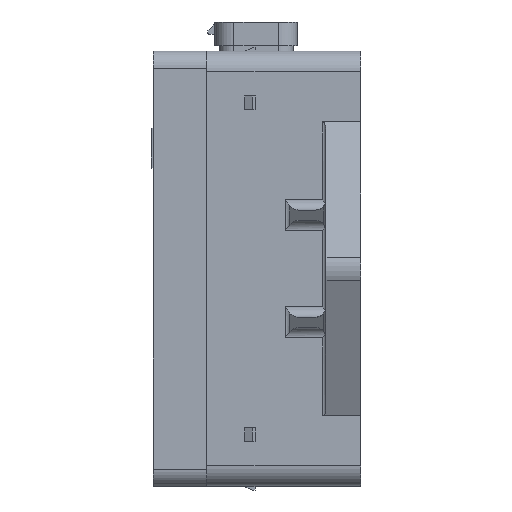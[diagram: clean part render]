
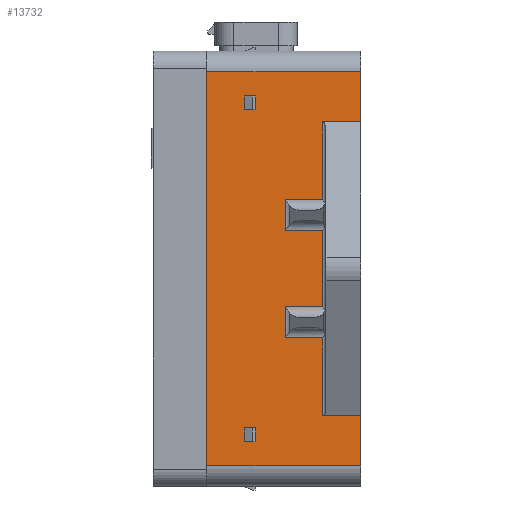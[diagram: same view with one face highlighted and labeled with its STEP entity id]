
A CAD part, left-side view. The second image highlights one B-rep face of the part: STEP entity #13732.
In plain terms, the highlighted planar face has unit normal (-1, 0, 0).
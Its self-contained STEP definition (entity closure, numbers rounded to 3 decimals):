
#313=DIRECTION('',(0.,-1.,0.));
#314=VECTOR('',#313,11.);
#315=CARTESIAN_POINT('',(-97.,0.6,-42.5));
#316=LINE('',#315,#314);
#343=DIRECTION('',(0.,0.,1.));
#344=VECTOR('',#343,14.5);
#345=CARTESIAN_POINT('',(-97.,-10.4,42.5));
#346=LINE('',#345,#344);
#347=DIRECTION('',(0.,0.,1.));
#348=VECTOR('',#347,14.5);
#349=CARTESIAN_POINT('',(-97.,-10.4,-57.));
#350=LINE('',#349,#348);
#351=DIRECTION('',(0.,1.,0.));
#352=VECTOR('',#351,3.);
#353=CARTESIAN_POINT('',(-97.,20.1,-50.));
#354=LINE('',#353,#352);
#355=DIRECTION('',(0.,-1.,0.));
#356=VECTOR('',#355,3.);
#357=CARTESIAN_POINT('',(-97.,23.1,-46.));
#358=LINE('',#357,#356);
#359=DIRECTION('',(0.,1.,0.));
#360=VECTOR('',#359,3.);
#361=CARTESIAN_POINT('',(-97.,20.1,46.));
#362=LINE('',#361,#360);
#363=DIRECTION('',(0.,-1.,0.));
#364=VECTOR('',#363,3.);
#365=CARTESIAN_POINT('',(-97.,23.1,50.));
#366=LINE('',#365,#364);
#404=DIRECTION('',(0.,0.,1.));
#405=VECTOR('',#404,114.);
#406=CARTESIAN_POINT('',(-97.,34.1,-57.));
#407=LINE('',#406,#405);
#1142=DIRECTION('',(0.,1.,0.));
#1143=VECTOR('',#1142,44.5);
#1144=CARTESIAN_POINT('',(-97.,-10.4,-57.));
#1145=LINE('',#1144,#1143);
#1330=DIRECTION('',(0.,-1.,0.));
#1331=VECTOR('',#1330,44.5);
#1332=CARTESIAN_POINT('',(-97.,34.1,57.));
#1333=LINE('',#1332,#1331);
#3096=DIRECTION('',(0.,1.,0.));
#3097=VECTOR('',#3096,11.);
#3098=CARTESIAN_POINT('',(-97.,-10.4,42.5));
#3099=LINE('',#3098,#3097);
#3196=DIRECTION('',(0.,1.,0.));
#3197=VECTOR('',#3196,10.828);
#3198=CARTESIAN_POINT('',(-97.,0.6,11.));
#3199=LINE('',#3198,#3197);
#3204=DIRECTION('',(0.,0.,1.));
#3205=VECTOR('',#3204,9.);
#3206=CARTESIAN_POINT('',(-97.,11.428,11.));
#3207=LINE('',#3206,#3205);
#3225=DIRECTION('',(0.,-1.,0.));
#3226=VECTOR('',#3225,10.828);
#3227=CARTESIAN_POINT('',(-97.,11.428,20.));
#3228=LINE('',#3227,#3226);
#3285=DIRECTION('',(0.,0.,1.));
#3286=VECTOR('',#3285,22.5);
#3287=CARTESIAN_POINT('',(-97.,0.6,20.));
#3288=LINE('',#3287,#3286);
#3297=DIRECTION('',(0.,0.,1.));
#3298=VECTOR('',#3297,22.);
#3299=CARTESIAN_POINT('',(-97.,0.6,-11.));
#3300=LINE('',#3299,#3298);
#3322=DIRECTION('',(0.,-1.,0.));
#3323=VECTOR('',#3322,10.828);
#3324=CARTESIAN_POINT('',(-97.,11.428,-11.));
#3325=LINE('',#3324,#3323);
#3447=DIRECTION('',(0.,1.,0.));
#3448=VECTOR('',#3447,10.828);
#3449=CARTESIAN_POINT('',(-97.,0.6,-20.));
#3450=LINE('',#3449,#3448);
#3455=DIRECTION('',(0.,0.,1.));
#3456=VECTOR('',#3455,9.);
#3457=CARTESIAN_POINT('',(-97.,11.428,-20.));
#3458=LINE('',#3457,#3456);
#3459=DIRECTION('',(0.,0.,1.));
#3460=VECTOR('',#3459,22.5);
#3461=CARTESIAN_POINT('',(-97.,0.6,-42.5));
#3462=LINE('',#3461,#3460);
#3479=DIRECTION('',(0.,0.,-1.));
#3480=VECTOR('',#3479,4.);
#3481=CARTESIAN_POINT('',(-97.,23.1,-46.));
#3482=LINE('',#3481,#3480);
#3491=DIRECTION('',(0.,0.,1.));
#3492=VECTOR('',#3491,4.);
#3493=CARTESIAN_POINT('',(-97.,20.1,-50.));
#3494=LINE('',#3493,#3492);
#3523=DIRECTION('',(0.,0.,-1.));
#3524=VECTOR('',#3523,4.);
#3525=CARTESIAN_POINT('',(-97.,23.1,50.));
#3526=LINE('',#3525,#3524);
#3539=DIRECTION('',(0.,0.,1.));
#3540=VECTOR('',#3539,4.);
#3541=CARTESIAN_POINT('',(-97.,20.1,46.));
#3542=LINE('',#3541,#3540);
#11692=CARTESIAN_POINT('',(-97.,23.1,-46.));
#11693=CARTESIAN_POINT('',(-97.,20.1,-46.));
#11694=VERTEX_POINT('',#11692);
#11695=VERTEX_POINT('',#11693);
#11704=CARTESIAN_POINT('',(-97.,20.1,-50.));
#11705=VERTEX_POINT('',#11704);
#11706=CARTESIAN_POINT('',(-97.,23.1,-50.));
#11707=VERTEX_POINT('',#11706);
#11712=CARTESIAN_POINT('',(-97.,20.1,46.));
#11713=VERTEX_POINT('',#11712);
#11714=CARTESIAN_POINT('',(-97.,23.1,46.));
#11715=VERTEX_POINT('',#11714);
#11716=CARTESIAN_POINT('',(-97.,23.1,50.));
#11717=CARTESIAN_POINT('',(-97.,20.1,50.));
#11718=VERTEX_POINT('',#11716);
#11719=VERTEX_POINT('',#11717);
#11958=CARTESIAN_POINT('',(-97.,-10.4,-42.5));
#11960=VERTEX_POINT('',#11958);
#11962=CARTESIAN_POINT('',(-97.,-10.4,-57.));
#11963=VERTEX_POINT('',#11962);
#11968=CARTESIAN_POINT('',(-97.,-10.4,57.));
#11969=VERTEX_POINT('',#11968);
#11970=CARTESIAN_POINT('',(-97.,-10.4,42.5));
#11971=VERTEX_POINT('',#11970);
#12130=CARTESIAN_POINT('',(-97.,34.1,-57.));
#12131=CARTESIAN_POINT('',(-97.,34.1,57.));
#12132=VERTEX_POINT('',#12130);
#12133=VERTEX_POINT('',#12131);
#12134=CARTESIAN_POINT('',(-97.,0.6,42.5));
#12135=VERTEX_POINT('',#12134);
#12136=CARTESIAN_POINT('',(-97.,0.6,20.));
#12137=VERTEX_POINT('',#12136);
#12138=CARTESIAN_POINT('',(-97.,11.428,20.));
#12139=VERTEX_POINT('',#12138);
#12140=CARTESIAN_POINT('',(-97.,11.428,11.));
#12141=VERTEX_POINT('',#12140);
#12142=CARTESIAN_POINT('',(-97.,0.6,11.));
#12143=VERTEX_POINT('',#12142);
#12144=CARTESIAN_POINT('',(-97.,0.6,-11.));
#12145=VERTEX_POINT('',#12144);
#12146=CARTESIAN_POINT('',(-97.,11.428,-11.));
#12147=VERTEX_POINT('',#12146);
#12148=CARTESIAN_POINT('',(-97.,11.428,-20.));
#12149=VERTEX_POINT('',#12148);
#12150=CARTESIAN_POINT('',(-97.,0.6,-20.));
#12151=VERTEX_POINT('',#12150);
#12152=CARTESIAN_POINT('',(-97.,0.6,-42.5));
#12153=VERTEX_POINT('',#12152);
#13676=CARTESIAN_POINT('',(-97.,11.85,0.));
#13677=DIRECTION('',(1.,0.,0.));
#13678=DIRECTION('',(0.,0.,1.));
#13679=AXIS2_PLACEMENT_3D('',#13676,#13677,#13678);
#13680=PLANE('',#13679);
#13682=ORIENTED_EDGE('',*,*,#13681,.T.);
#13684=ORIENTED_EDGE('',*,*,#13683,.T.);
#13685=ORIENTED_EDGE('',*,*,#13450,.F.);
#13687=ORIENTED_EDGE('',*,*,#13686,.T.);
#13689=ORIENTED_EDGE('',*,*,#13688,.F.);
#13691=ORIENTED_EDGE('',*,*,#13690,.F.);
#13693=ORIENTED_EDGE('',*,*,#13692,.F.);
#13695=ORIENTED_EDGE('',*,*,#13694,.F.);
#13697=ORIENTED_EDGE('',*,*,#13696,.F.);
#13699=ORIENTED_EDGE('',*,*,#13698,.F.);
#13701=ORIENTED_EDGE('',*,*,#13700,.F.);
#13703=ORIENTED_EDGE('',*,*,#13702,.F.);
#13705=ORIENTED_EDGE('',*,*,#13704,.F.);
#13706=ORIENTED_EDGE('',*,*,#13659,.T.);
#13707=ORIENTED_EDGE('',*,*,#13474,.F.);
#13709=ORIENTED_EDGE('',*,*,#13708,.T.);
#13710=EDGE_LOOP('',(#13682,#13684,#13685,#13687,#13689,#13691,#13693,#13695,
#13697,#13699,#13701,#13703,#13705,#13706,#13707,#13709));
#13711=FACE_OUTER_BOUND('',#13710,.F.);
#13713=ORIENTED_EDGE('',*,*,#13712,.T.);
#13715=ORIENTED_EDGE('',*,*,#13714,.F.);
#13717=ORIENTED_EDGE('',*,*,#13716,.T.);
#13719=ORIENTED_EDGE('',*,*,#13718,.F.);
#13720=EDGE_LOOP('',(#13713,#13715,#13717,#13719));
#13721=FACE_BOUND('',#13720,.F.);
#13723=ORIENTED_EDGE('',*,*,#13722,.T.);
#13725=ORIENTED_EDGE('',*,*,#13724,.F.);
#13727=ORIENTED_EDGE('',*,*,#13726,.T.);
#13729=ORIENTED_EDGE('',*,*,#13728,.F.);
#13730=EDGE_LOOP('',(#13723,#13725,#13727,#13729));
#13731=FACE_BOUND('',#13730,.F.);
#13732=ADVANCED_FACE('',(#13711,#13721,#13731),#13680,.F.);
#13450=EDGE_CURVE('',#11971,#11969,#346,.T.);
#13474=EDGE_CURVE('',#11963,#11960,#350,.T.);
#13659=EDGE_CURVE('',#12153,#11960,#316,.T.);
#13681=EDGE_CURVE('',#12132,#12133,#407,.T.);
#13683=EDGE_CURVE('',#12133,#11969,#1333,.T.);
#13686=EDGE_CURVE('',#11971,#12135,#3099,.T.);
#13688=EDGE_CURVE('',#12137,#12135,#3288,.T.);
#13690=EDGE_CURVE('',#12139,#12137,#3228,.T.);
#13692=EDGE_CURVE('',#12141,#12139,#3207,.T.);
#13694=EDGE_CURVE('',#12143,#12141,#3199,.T.);
#13696=EDGE_CURVE('',#12145,#12143,#3300,.T.);
#13698=EDGE_CURVE('',#12147,#12145,#3325,.T.);
#13700=EDGE_CURVE('',#12149,#12147,#3458,.T.);
#13702=EDGE_CURVE('',#12151,#12149,#3450,.T.);
#13704=EDGE_CURVE('',#12153,#12151,#3462,.T.);
#13708=EDGE_CURVE('',#11963,#12132,#1145,.T.);
#13712=EDGE_CURVE('',#11694,#11707,#3482,.T.);
#13714=EDGE_CURVE('',#11705,#11707,#354,.T.);
#13716=EDGE_CURVE('',#11705,#11695,#3494,.T.);
#13718=EDGE_CURVE('',#11694,#11695,#358,.T.);
#13722=EDGE_CURVE('',#11718,#11715,#3526,.T.);
#13724=EDGE_CURVE('',#11713,#11715,#362,.T.);
#13726=EDGE_CURVE('',#11713,#11719,#3542,.T.);
#13728=EDGE_CURVE('',#11718,#11719,#366,.T.);
